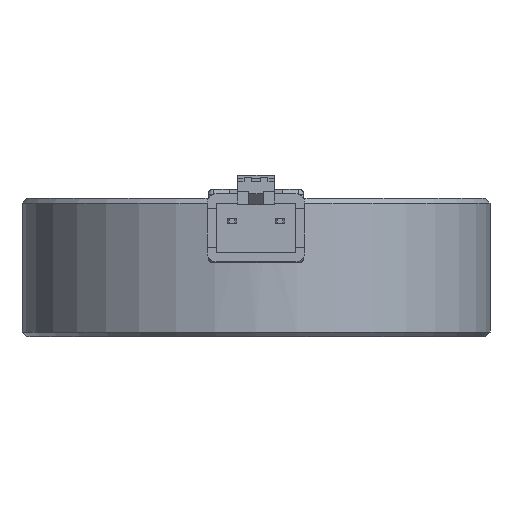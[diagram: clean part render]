
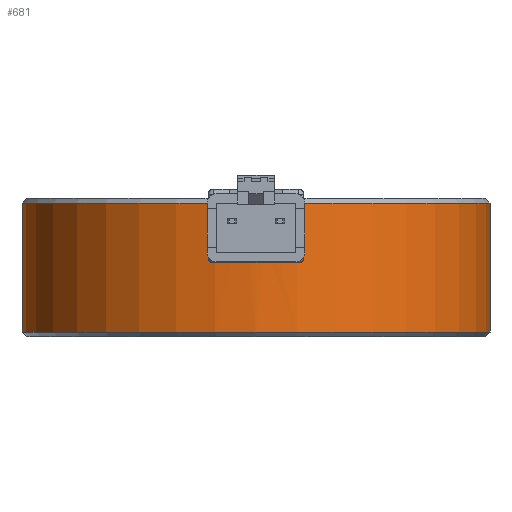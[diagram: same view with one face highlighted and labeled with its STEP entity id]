
A CAD part, front view. The second image highlights one B-rep face of the part: STEP entity #681.
In plain terms, the highlighted cylindrical face has radius 25.4 mm (diameter 50.8 mm), a full revolution.
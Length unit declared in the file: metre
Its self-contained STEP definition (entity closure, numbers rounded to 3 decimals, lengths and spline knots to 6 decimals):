
#681=ADVANCED_FACE('0:748',(#1896,#1897,#1898),#1899,.T.);
#1896=FACE_BOUND('',#3529,.T.);
#1897=FACE_OUTER_BOUND('',#3530,.T.);
#1898=FACE_OUTER_BOUND('',#3531,.T.);
#1899=CYLINDRICAL_SURFACE('',#3532,0.0254);
#3529=EDGE_LOOP('',(#6370));
#3530=EDGE_LOOP('',(#6371));
#3531=EDGE_LOOP('',(#6372));
#3532=AXIS2_PLACEMENT_3D('',#6373,#6374,#6375);
#6370=ORIENTED_EDGE('',*,*,#8347,.F.);
#6371=ORIENTED_EDGE('',*,*,#8361,.T.);
#6372=ORIENTED_EDGE('',*,*,#8352,.T.);
#6373=CARTESIAN_POINT('',(0.0,-0.005708,0.0115));
#6374=DIRECTION('',(0.0,0.,-1.0));
#6375=DIRECTION('',(0.,-1.0,0.));
#8347=EDGE_CURVE('3:237335',#8557,#8557,#8558,.T.);
#8352=EDGE_CURVE('3:237138',#8565,#8565,#8566,.T.);
#8361=EDGE_CURVE('0:808',#8579,#8579,#8580,.T.);
#8557=VERTEX_POINT('',#8794);
#8558=B_SPLINE_CURVE_WITH_KNOTS('',3,(#8795,#8796,#8797,#8798,#8799,#8800,#8801,#8802,#8803,#8804,#8805,#8806,#8807,#8808,#8809,#8810,#8811,#8812,#8813,#8814,#8815,#8816,#8817,#8818,#8819,#8820,#8821,#8822,#8823,#8824,#8825,#8826,#8827,#8828,#8829,#8830,#8831,#8832,#8833,#8834,#8835,#8836,#8837,#8838,#8839,#8840,#8841,#8842,#8843,#8844,#8845,#8846,#8847,#8848),.UNSPECIFIED.,.T.,.F.,(2,2,2,2,2,2,2,2,2,2,2,2,2,2,2,2,2,2,2,2,2,2,2,2,2,2,2,2,2),(-0.000782,0.0,0.000391,0.000782,0.001173,0.001564,0.002345,0.003127,0.003518,0.003909,0.0043,0.004691,0.005082,0.005473,0.005864,0.006255,0.007036,0.007818,0.008209,0.0086,0.008991,0.009382,0.009773,0.010164,0.010555,0.010946,0.011727,0.012509,0.0129),.UNSPECIFIED.);
#8565=VERTEX_POINT('',#8855);
#8566=CIRCLE('',#8856,0.0254);
#8579=VERTEX_POINT('',#8869);
#8580=CIRCLE('',#8870,0.0254);
#8794=CARTESIAN_POINT('',(0.,-0.031108,0.01));
#8795=CARTESIAN_POINT('',(0.000264,-0.031108,0.01));
#8796=CARTESIAN_POINT('',(-0.000132,-0.031108,0.01));
#8797=CARTESIAN_POINT('',(-0.000262,-0.031106,0.009987));
#8798=CARTESIAN_POINT('',(-0.000518,-0.031103,0.009937));
#8799=CARTESIAN_POINT('',(-0.000645,-0.0311,0.009898));
#8800=CARTESIAN_POINT('',(-0.000887,-0.031092,0.009798));
#8801=CARTESIAN_POINT('',(-0.001002,-0.031088,0.009736));
#8802=CARTESIAN_POINT('',(-0.001219,-0.031078,0.009591));
#8803=CARTESIAN_POINT('',(-0.001322,-0.031073,0.009507));
#8804=CARTESIAN_POINT('',(-0.001599,-0.031058,0.00923));
#8805=CARTESIAN_POINT('',(-0.001748,-0.031048,0.009007));
#8806=CARTESIAN_POINT('',(-0.001947,-0.031033,0.008526));
#8807=CARTESIAN_POINT('',(-0.002,-0.031029,0.008262));
#8808=CARTESIAN_POINT('',(-0.002,-0.031029,0.007871));
#8809=CARTESIAN_POINT('',(-0.001987,-0.03103,0.007738));
#8810=CARTESIAN_POINT('',(-0.001936,-0.031034,0.007482));
#8811=CARTESIAN_POINT('',(-0.001898,-0.031037,0.007357));
#8812=CARTESIAN_POINT('',(-0.001798,-0.031044,0.007115));
#8813=CARTESIAN_POINT('',(-0.001736,-0.031048,0.006998));
#8814=CARTESIAN_POINT('',(-0.001591,-0.031058,0.006781));
#8815=CARTESIAN_POINT('',(-0.001508,-0.031063,0.00668));
#8816=CARTESIAN_POINT('',(-0.001322,-0.031073,0.006493));
#8817=CARTESIAN_POINT('',(-0.001221,-0.031078,0.006411));
#8818=CARTESIAN_POINT('',(-0.001004,-0.031088,0.006266));
#8819=CARTESIAN_POINT('',(-0.000887,-0.031092,0.006203));
#8820=CARTESIAN_POINT('',(-0.000645,-0.0311,0.006103));
#8821=CARTESIAN_POINT('',(-0.00052,-0.031103,0.006065));
#8822=CARTESIAN_POINT('',(-0.000264,-0.031106,0.006013));
#8823=CARTESIAN_POINT('',(-0.000131,-0.031108,0.006));
#8824=CARTESIAN_POINT('',(0.00026,-0.031108,0.006));
#8825=CARTESIAN_POINT('',(0.000524,-0.031103,0.006053));
#8826=CARTESIAN_POINT('',(0.001005,-0.031089,0.006252));
#8827=CARTESIAN_POINT('',(0.001228,-0.031078,0.006401));
#8828=CARTESIAN_POINT('',(0.001505,-0.031063,0.006677));
#8829=CARTESIAN_POINT('',(0.00159,-0.031058,0.00678));
#8830=CARTESIAN_POINT('',(0.001735,-0.031048,0.006997));
#8831=CARTESIAN_POINT('',(0.001797,-0.031044,0.007112));
#8832=CARTESIAN_POINT('',(0.001897,-0.031037,0.007354));
#8833=CARTESIAN_POINT('',(0.001936,-0.031034,0.007481));
#8834=CARTESIAN_POINT('',(0.001987,-0.03103,0.007736));
#8835=CARTESIAN_POINT('',(0.002,-0.031029,0.007866));
#8836=CARTESIAN_POINT('',(0.002,-0.031029,0.00813));
#8837=CARTESIAN_POINT('',(0.001987,-0.03103,0.008261));
#8838=CARTESIAN_POINT('',(0.001937,-0.031034,0.008516));
#8839=CARTESIAN_POINT('',(0.001898,-0.031037,0.008643));
#8840=CARTESIAN_POINT('',(0.001798,-0.031044,0.008886));
#8841=CARTESIAN_POINT('',(0.001737,-0.031048,0.009001));
#8842=CARTESIAN_POINT('',(0.001592,-0.031058,0.009218));
#8843=CARTESIAN_POINT('',(0.001508,-0.031063,0.009321));
#8844=CARTESIAN_POINT('',(0.001231,-0.031078,0.009598));
#8845=CARTESIAN_POINT('',(0.001008,-0.031089,0.009747));
#8846=CARTESIAN_POINT('',(0.000527,-0.031103,0.009947));
#8847=CARTESIAN_POINT('',(0.000264,-0.031108,0.01));
#8848=CARTESIAN_POINT('',(-0.000132,-0.031108,0.01));
#8855=CARTESIAN_POINT('',(0.,0.019692,-0.0035));
#8856=AXIS2_PLACEMENT_3D('',#9089,#9090,#9091);
#8869=CARTESIAN_POINT('',(0.,-0.031108,0.0105));
#8870=AXIS2_PLACEMENT_3D('',#9104,#9105,#9106);
#9089=CARTESIAN_POINT('',(0.0,-0.005708,-0.0035));
#9090=DIRECTION('',(0.0,0.,1.0));
#9091=DIRECTION('',(0.,1.0,0.));
#9104=CARTESIAN_POINT('',(0.0,-0.005708,0.0105));
#9105=DIRECTION('',(0.0,0.,-1.0));
#9106=DIRECTION('',(0.,-1.0,0.));
